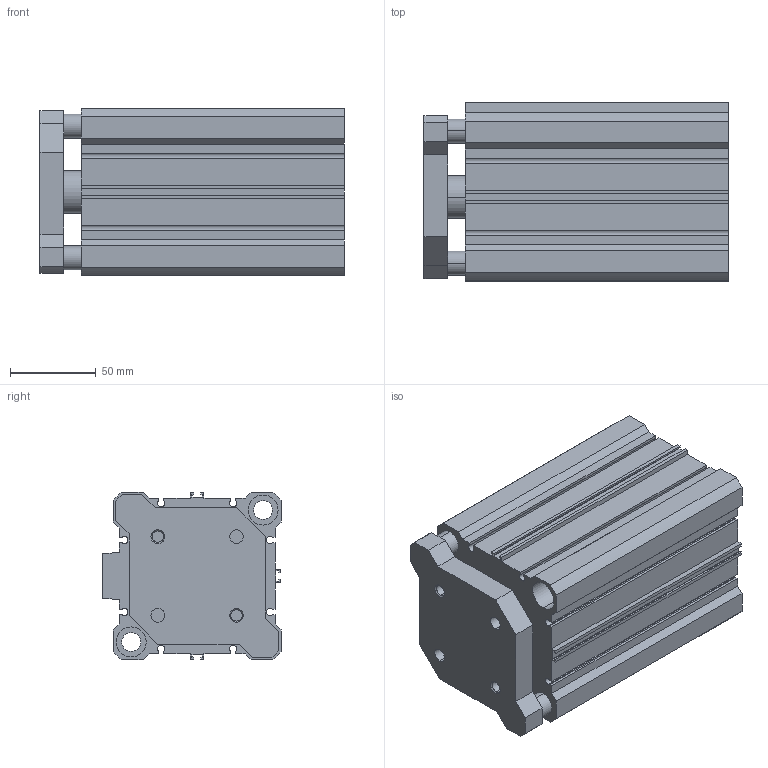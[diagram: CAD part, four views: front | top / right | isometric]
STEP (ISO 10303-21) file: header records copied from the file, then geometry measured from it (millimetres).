
FILE_DESCRIPTION (( 'STEP AP203' ), '1' );
FILE_NAME ('CCMG80-100.STEP', '2020-04-01T18:52:50', ( '' ), ( '' ), 'SwSTEP 2.0', 'SolidWorks 2019', '' );
FILE_SCHEMA (( 'CONFIG_CONTROL_DESIGN' ));
Length unit declared in the file: millimetre
Products named in the file (1): CCMG80-100
Bounding box: 177.5 x 104 x 98 mm (x, y, z)
Volume: 965676.9 mm3; surface area: 213061.5 mm2
Topology: 2 solids, 2 shells, 194 faces, 518 edges, 338 vertices
Faces by surface type: plane 114, cylinder 64, cone 16
Entity records: 6105 total; most frequent: CARTESIAN_POINT 1047, DIRECTION 1044, ORIENTED_EDGE 1028, EDGE_CURVE 514, VECTOR 374, LINE 374, VERTEX_POINT 338, AXIS2_PLACEMENT_3D 335
